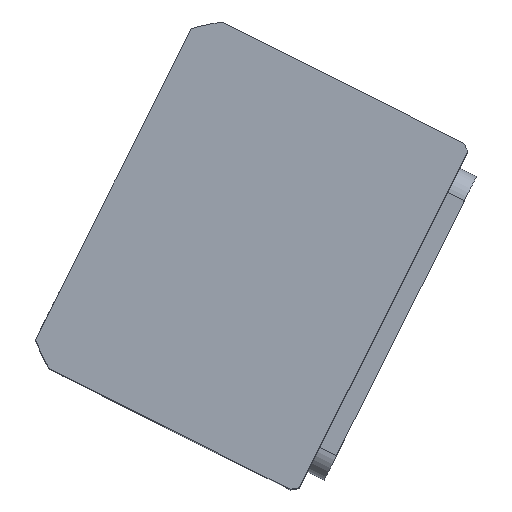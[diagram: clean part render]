
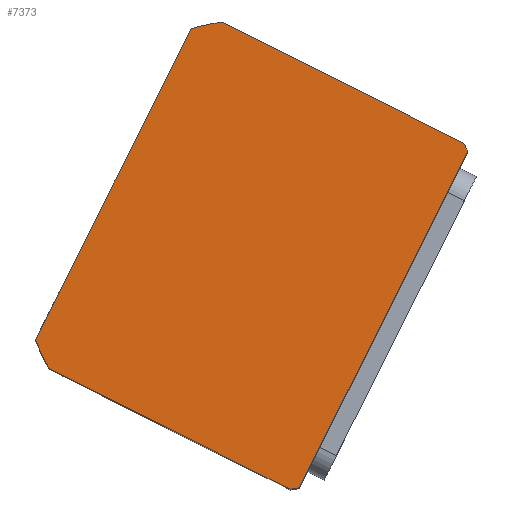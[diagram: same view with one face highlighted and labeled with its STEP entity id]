
A CAD part, top view. The second image highlights one B-rep face of the part: STEP entity #7373.
In plain terms, the highlighted planar face has unit normal (0, 0, 1) as drawn and (0, 0, -1) by its records, which use the part's own axes.
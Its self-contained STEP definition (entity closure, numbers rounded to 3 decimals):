
#90 = CARTESIAN_POINT ( 'NONE',  ( 0., 2.5, 0. ) ) ;
#100 = EDGE_CURVE ( 'NONE', #5467, #20530, #16555, .T. ) ;
#260 = CARTESIAN_POINT ( 'NONE',  ( 0., 2.5, 0. ) ) ;
#286 = DIRECTION ( 'NONE',  ( 0., 0., 1. ) ) ;
#342 = DIRECTION ( 'NONE',  ( 0., 0., 1. ) ) ;
#385 = VERTEX_POINT ( 'NONE', #8546 ) ;
#417 = DIRECTION ( 'NONE',  ( 1., 0., 0. ) ) ;
#477 = CARTESIAN_POINT ( 'NONE',  ( 57., -37.265, 0. ) ) ;
#677 = AXIS2_PLACEMENT_3D ( 'NONE', #10927, #286, #12700 ) ;
#921 = CIRCLE ( 'NONE', #9271, 69.5 ) ;
#1076 = CIRCLE ( 'NONE', #677, 69.5 ) ;
#1183 = VERTEX_POINT ( 'NONE', #3372 ) ;
#1196 = ORIENTED_EDGE ( 'NONE', *, *, #1809, .F. ) ;
#1230 = CARTESIAN_POINT ( 'NONE',  ( 0., 0., 0. ) ) ;
#1495 = EDGE_CURVE ( 'NONE', #1780, #19141, #13499, .T. ) ;
#1514 = VECTOR ( 'NONE', #14867, 1000. ) ;
#1571 = VERTEX_POINT ( 'NONE', #13062 ) ;
#1780 = VERTEX_POINT ( 'NONE', #10850 ) ;
#1809 = EDGE_CURVE ( 'NONE', #19141, #5467, #1840, .T. ) ;
#1840 = LINE ( 'NONE', #14509, #7149 ) ;
#1889 = DIRECTION ( 'NONE',  ( 1., 0., 0. ) ) ;
#1936 = EDGE_LOOP ( 'NONE', ( #5653, #1196, #9899, #22683, #11352, #12405, #22478, #21086 ) ) ;
#2511 = DIRECTION ( 'NONE',  ( 1., 0., 0. ) ) ;
#3372 = CARTESIAN_POINT ( 'NONE',  ( -57., 42.265, 0. ) ) ;
#4297 = CARTESIAN_POINT ( 'NONE',  ( -57., 44.5, 0. ) ) ;
#4730 = CARTESIAN_POINT ( 'NONE',  ( 55.374, 44.5, 0. ) ) ;
#5467 = VERTEX_POINT ( 'NONE', #10249 ) ;
#5653 = ORIENTED_EDGE ( 'NONE', *, *, #100, .F. ) ;
#5894 = CARTESIAN_POINT ( 'NONE',  ( 0., 2.5, 0. ) ) ;
#6187 = AXIS2_PLACEMENT_3D ( 'NONE', #260, #342, #417 ) ;
#6500 = VECTOR ( 'NONE', #2511, 1000. ) ;
#6608 = DIRECTION ( 'NONE',  ( 1., 0., 0. ) ) ;
#7149 = VECTOR ( 'NONE', #18083, 1000. ) ;
#7232 = AXIS2_PLACEMENT_3D ( 'NONE', #1230, #17190, #6608 ) ;
#7373 = ADVANCED_FACE ( 'NONE', ( #22171 ), #8191, .F. ) ;
#7381 = CARTESIAN_POINT ( 'NONE',  ( -57., -37.265, 0. ) ) ;
#7691 = DIRECTION ( 'NONE',  ( 1., 0., 0. ) ) ;
#8191 = PLANE ( 'NONE',  #7232 ) ;
#8227 = LINE ( 'NONE', #22378, #17596 ) ;
#8546 = CARTESIAN_POINT ( 'NONE',  ( -55.374, 44.5, 0. ) ) ;
#9271 = AXIS2_PLACEMENT_3D ( 'NONE', #90, #12508, #1889 ) ;
#9706 = EDGE_CURVE ( 'NONE', #385, #1183, #1076, .T. ) ;
#9899 = ORIENTED_EDGE ( 'NONE', *, *, #1495, .F. ) ;
#10249 = CARTESIAN_POINT ( 'NONE',  ( 57., 42.265, 0. ) ) ;
#10406 = LINE ( 'NONE', #4297, #1514 ) ;
#10850 = CARTESIAN_POINT ( 'NONE',  ( 51.198, -44.5, 0. ) ) ;
#10927 = CARTESIAN_POINT ( 'NONE',  ( 0., 2.5, 0. ) ) ;
#11352 = ORIENTED_EDGE ( 'NONE', *, *, #18885, .F. ) ;
#12388 = AXIS2_PLACEMENT_3D ( 'NONE', #5894, #18258, #7691 ) ;
#12405 = ORIENTED_EDGE ( 'NONE', *, *, #16354, .F. ) ;
#12508 = DIRECTION ( 'NONE',  ( 0., 0., 1. ) ) ;
#12700 = DIRECTION ( 'NONE',  ( 1., 0., 0. ) ) ;
#13062 = CARTESIAN_POINT ( 'NONE',  ( -51.198, -44.5, 0. ) ) ;
#13499 = CIRCLE ( 'NONE', #12388, 69.5 ) ;
#14509 = CARTESIAN_POINT ( 'NONE',  ( 57., 44.5, 0. ) ) ;
#14867 = DIRECTION ( 'NONE',  ( -1., 0., 0. ) ) ;
#15468 = DIRECTION ( 'NONE',  ( 0., -1., 0. ) ) ;
#15989 = EDGE_CURVE ( 'NONE', #20530, #385, #10406, .T. ) ;
#16354 = EDGE_CURVE ( 'NONE', #1183, #21873, #8227, .T. ) ;
#16555 = CIRCLE ( 'NONE', #6187, 69.5 ) ;
#17003 = LINE ( 'NONE', #20173, #6500 ) ;
#17190 = DIRECTION ( 'NONE',  ( 0., 0., 1. ) ) ;
#17596 = VECTOR ( 'NONE', #15468, 1000. ) ;
#18083 = DIRECTION ( 'NONE',  ( 0., 1., 0. ) ) ;
#18258 = DIRECTION ( 'NONE',  ( 0., 0., 1. ) ) ;
#18885 = EDGE_CURVE ( 'NONE', #21873, #1571, #921, .T. ) ;
#19141 = VERTEX_POINT ( 'NONE', #477 ) ;
#19314 = EDGE_CURVE ( 'NONE', #1571, #1780, #17003, .T. ) ;
#20173 = CARTESIAN_POINT ( 'NONE',  ( -57., -44.5, 0. ) ) ;
#20530 = VERTEX_POINT ( 'NONE', #4730 ) ;
#21086 = ORIENTED_EDGE ( 'NONE', *, *, #15989, .F. ) ;
#21873 = VERTEX_POINT ( 'NONE', #7381 ) ;
#22171 = FACE_OUTER_BOUND ( 'NONE', #1936, .T. ) ;
#22378 = CARTESIAN_POINT ( 'NONE',  ( -57., 44.5, 0. ) ) ;
#22478 = ORIENTED_EDGE ( 'NONE', *, *, #9706, .F. ) ;
#22683 = ORIENTED_EDGE ( 'NONE', *, *, #19314, .F. ) ;
